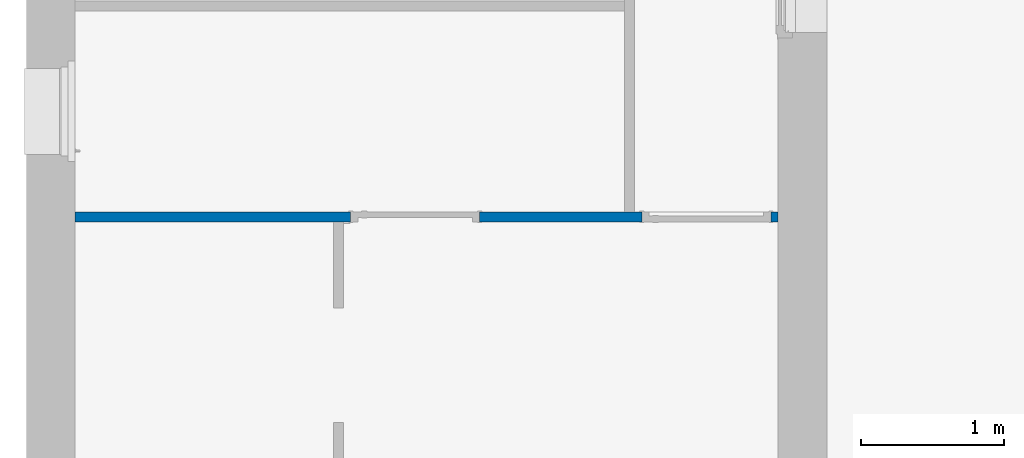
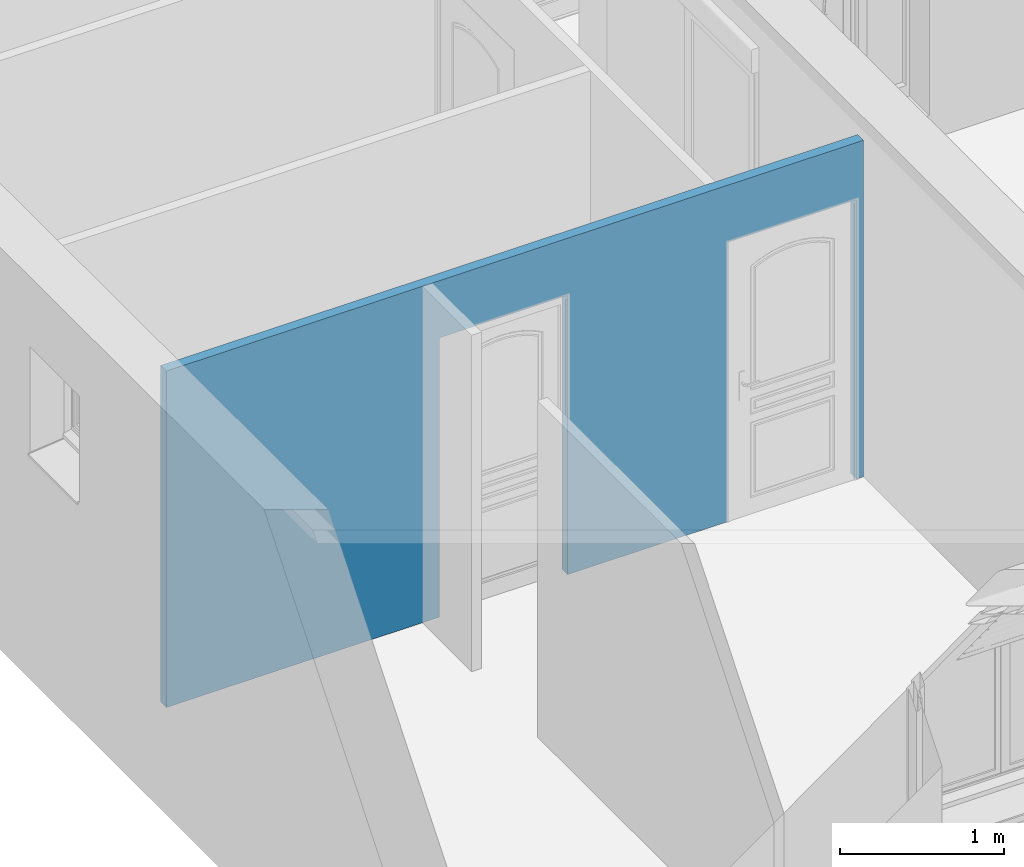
# One storey, part 5 of 23: 1 wall, 2 openings.
"""IFC2X3 building model written with IfcOpenShell, lengths in metres."""

from ifc_helpers import new_model, entity, si_unit, converted_unit, derived_unit, direction, frame, frame_2d, origin, place, context, subcontext, project, spatial, rectangle, extrude, material, layer, layer_set, layer_usage, type_object, element, save


model = new_model("IFC2X3")

# Units and contexts
model_context = context("Model", 3, precision=1e-05, world=origin(), true_north=direction((6.12303176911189e-17, 1.0)))
body_context = subcontext(model_context, "Body", "Model", "MODEL_VIEW")
ifc_project = project(units=[si_unit("LENGTHUNIT", "METRE"), si_unit("AREAUNIT", "SQUARE_METRE"), si_unit("VOLUMEUNIT", "CUBIC_METRE"), converted_unit("PLANEANGLEUNIT", "DEGREE", entity("IfcRatioMeasure", 0.0174532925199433), si_unit("PLANEANGLEUNIT", "RADIAN"), dimensions=[0, 0, 0, 0, 0, 0, 0]), si_unit("MASSUNIT", "GRAM", prefix="KILO"), derived_unit("MASSDENSITYUNIT", [(si_unit("MASSUNIT", "GRAM", prefix="KILO"), 1), (si_unit("LENGTHUNIT", "METRE"), -3)]), si_unit("TIMEUNIT", "SECOND"), si_unit("FREQUENCYUNIT", "HERTZ"), si_unit("THERMODYNAMICTEMPERATUREUNIT", "DEGREE_CELSIUS"), derived_unit("THERMALTRANSMITTANCEUNIT", [(si_unit("MASSUNIT", "GRAM", prefix="KILO"), 1), (si_unit("THERMODYNAMICTEMPERATUREUNIT", "KELVIN"), -1), (si_unit("TIMEUNIT", "SECOND"), -3)]), derived_unit("VOLUMETRICFLOWRATEUNIT", [(si_unit("LENGTHUNIT", "METRE"), 3), (si_unit("TIMEUNIT", "SECOND"), -1)]), si_unit("ELECTRICCURRENTUNIT", "AMPERE"), si_unit("ELECTRICVOLTAGEUNIT", "VOLT"), si_unit("POWERUNIT", "WATT"), si_unit("FORCEUNIT", "NEWTON", prefix="KILO"), si_unit("ILLUMINANCEUNIT", "LUX"), si_unit("LUMINOUSFLUXUNIT", "LUMEN"), si_unit("LUMINOUSINTENSITYUNIT", "CANDELA"), derived_unit("USERDEFINED", [(si_unit("MASSUNIT", "GRAM", prefix="KILO"), -1), (si_unit("LENGTHUNIT", "METRE"), -2), (si_unit("TIMEUNIT", "SECOND"), 3), (si_unit("LUMINOUSFLUXUNIT", "LUMEN"), 1)]), derived_unit("LINEARVELOCITYUNIT", [(si_unit("LENGTHUNIT", "METRE"), 1), (si_unit("TIMEUNIT", "SECOND"), -1)]), si_unit("PRESSUREUNIT", "PASCAL"), derived_unit("USERDEFINED", [(si_unit("LENGTHUNIT", "METRE"), -2), (si_unit("MASSUNIT", "GRAM", prefix="KILO"), 1), (si_unit("TIMEUNIT", "SECOND"), -2)])], contexts=[model_context])

# Site, building, storey
site_placement = place(None, origin())
site = spatial("IfcSite", under=ifc_project, at=site_placement, Name="Default", CompositionType="ELEMENT")
building_placement = place(site_placement, origin())
building = spatial("IfcBuilding", under=site, at=building_placement, CompositionType="ELEMENT")
storey_placement = place(building_placement, origin())
storey = spatial("IfcBuildingStorey", under=building, at=storey_placement, Name="2 - Rez de Chaussée", CompositionType="ELEMENT", Elevation=-1.94916083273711e-14)

# Wall, openings
ifc_material = material(Name="Mur par défaut")
ifc_layer = layer(ifc_material, 0.07)
ifc_layer_set = layer_set([ifc_layer], Name="Mur de base:Cloison distributive Placostil® 72/48 - 1x Placoplatre® BA 13 avec M 48 - EI30 - 33dB - max 3,45m")
ifc_layer_usage = layer_usage(ifc_layer_set, "AXIS2", "NEGATIVE", 0.035)
wall_type = type_object("IfcWallType", Name="Mur de base:Cloison distributive Placostil® 72/48 - 1x Placoplatre® BA 13 avec M 48 - EI30 - 33dB - max 3,45m", PredefinedType="STANDARD", material=ifc_layer_set)
wall_placement = place(storey_placement, frame((-9.59622246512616, -2.79694499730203, 0.0)))
wall = element("IfcWallStandardCase", 1, at=wall_placement, inside=storey, type_object=wall_type, material=ifc_layer_usage, Name="Mur de base:Cloison distributive Placostil® 72/48 - 1x Placoplatre® BA 13 avec M 48 - EI30 - 33dB - max 3,45m", ObjectType="Mur de base:Cloison distributive Placostil® 72/48 - 1x Placoplatre® BA 13 avec M 48 - EI30 - 33dB - max 3,45m", context=body_context, shape_type="SweptSolid", body=[
    extrude(rectangle(XDim=4.90000000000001, YDim=0.0700000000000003, at=frame_2d((2.45000000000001, 0.0), x_axis=(-1.0, 0.0))), origin(), (0.0, 0.0, 1.0), 2.50000000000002),
])
opening_1_placement = place(wall_placement, frame((4.85000000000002, 0.0349999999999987, 0.0)))
element("IfcOpeningElement", 2, at=opening_1_placement, cuts=wall, Name="Int. Simple - moulures:PP Moulure cintrée (0.83 m x 2.04 m):1", ObjectType="Opening", context=body_context, shape_type="SweptSolid", body=[
    extrude(rectangle(XDim=2.075, YDim=0.9, at=frame_2d((1.0375, 0.45), x_axis=(1.0, 0.0))), frame((0.0, 0.0, 0.0), z_axis=(0.0, -1.0, 0.0), x_axis=(0.0, 0.0, 1.0)), (0.0, 0.0, 1.0), 0.07),
])
opening_2_placement = place(wall_placement, frame((1.91999999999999, -0.0349999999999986, 0.0)))
element("IfcOpeningElement", 3, at=opening_2_placement, cuts=wall, Name="Int. Simple - moulures:PP Moulure cintrée (0.83 m x 2.04 m):1", ObjectType="Opening", context=body_context, shape_type="SweptSolid", body=[
    extrude(rectangle(XDim=2.075, YDim=0.9, at=frame_2d((1.0375, 0.45), x_axis=(1.0, 0.0))), frame((0.0, 0.0, 0.0), z_axis=(0.0, 1.0, 0.0), x_axis=(0.0, 0.0, 1.0)), (0.0, 0.0, 1.0), 0.07),
])

save(model, "model.ifc")
